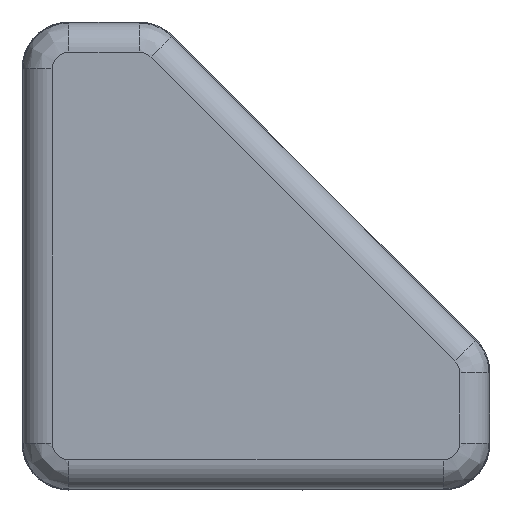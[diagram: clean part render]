
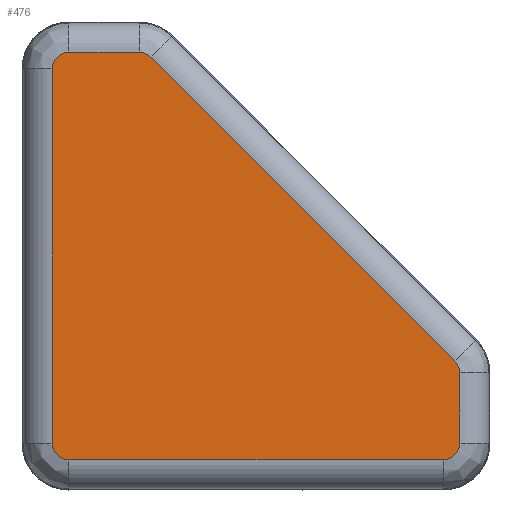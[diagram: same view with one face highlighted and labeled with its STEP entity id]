
A CAD part, left-side view. The second image highlights one B-rep face of the part: STEP entity #476.
In plain terms, the highlighted planar face has unit normal (-1, 0, 0).
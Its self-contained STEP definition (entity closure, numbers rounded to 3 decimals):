
#416=CIRCLE('',#1264,1.418);
#417=CIRCLE('',#1265,1.418);
#418=CIRCLE('',#1266,1.418);
#419=CIRCLE('',#1267,1.418);
#420=CIRCLE('',#1268,1.418);
#476=ADVANCED_FACE('',(#551),#505,.F.);
#505=PLANE('',#1269);
#551=FACE_OUTER_BOUND('',#607,.T.);
#607=EDGE_LOOP('',(#818,#819,#820,#821,#822,#823,#824,#825,#826,#827));
#818=ORIENTED_EDGE('',*,*,#1038,.T.);
#819=ORIENTED_EDGE('',*,*,#1039,.T.);
#820=ORIENTED_EDGE('',*,*,#1040,.T.);
#821=ORIENTED_EDGE('',*,*,#1041,.T.);
#822=ORIENTED_EDGE('',*,*,#1042,.T.);
#823=ORIENTED_EDGE('',*,*,#1043,.T.);
#824=ORIENTED_EDGE('',*,*,#1044,.T.);
#825=ORIENTED_EDGE('',*,*,#1045,.T.);
#826=ORIENTED_EDGE('',*,*,#1046,.T.);
#827=ORIENTED_EDGE('',*,*,#1047,.T.);
#926=VERTEX_POINT('',#1863);
#927=VERTEX_POINT('',#1864);
#928=VERTEX_POINT('',#1866);
#929=VERTEX_POINT('',#1868);
#930=VERTEX_POINT('',#1870);
#931=VERTEX_POINT('',#1872);
#932=VERTEX_POINT('',#1874);
#933=VERTEX_POINT('',#1876);
#934=VERTEX_POINT('',#1878);
#935=VERTEX_POINT('',#1880);
#1038=EDGE_CURVE('',#926,#927,#1119,.T.);
#1039=EDGE_CURVE('',#927,#928,#416,.T.);
#1040=EDGE_CURVE('',#928,#929,#1120,.T.);
#1041=EDGE_CURVE('',#929,#930,#417,.T.);
#1042=EDGE_CURVE('',#930,#931,#1121,.T.);
#1043=EDGE_CURVE('',#931,#932,#418,.T.);
#1044=EDGE_CURVE('',#932,#933,#1122,.T.);
#1045=EDGE_CURVE('',#933,#934,#419,.T.);
#1046=EDGE_CURVE('',#934,#935,#1123,.T.);
#1047=EDGE_CURVE('',#935,#926,#420,.T.);
#1119=LINE('',#1862,#1185);
#1120=LINE('',#1867,#1186);
#1121=LINE('',#1871,#1187);
#1122=LINE('',#1875,#1188);
#1123=LINE('',#1879,#1189);
#1185=VECTOR('',#1494,1.);
#1186=VECTOR('',#1497,1.);
#1187=VECTOR('',#1500,1.);
#1188=VECTOR('',#1503,1.);
#1189=VECTOR('',#1506,1.);
#1264=AXIS2_PLACEMENT_3D('',#1865,#1495,#1496);
#1265=AXIS2_PLACEMENT_3D('',#1869,#1498,#1499);
#1266=AXIS2_PLACEMENT_3D('',#1873,#1501,#1502);
#1267=AXIS2_PLACEMENT_3D('',#1877,#1504,#1505);
#1268=AXIS2_PLACEMENT_3D('',#1881,#1507,#1508);
#1269=AXIS2_PLACEMENT_3D('',#1882,#1509,#1510);
#1494=DIRECTION('',(0.,0.,-1.));
#1495=DIRECTION('',(-1.,0.,0.));
#1496=DIRECTION('',(0.,0.,1.));
#1497=DIRECTION('',(0.,-1.,0.));
#1498=DIRECTION('',(-1.,0.,0.));
#1499=DIRECTION('',(0.,0.,1.));
#1500=DIRECTION('',(0.,0.,1.));
#1501=DIRECTION('',(-1.,0.,0.));
#1502=DIRECTION('',(0.,0.,1.));
#1503=DIRECTION('',(0.,0.707,0.707));
#1504=DIRECTION('',(-1.,0.,0.));
#1505=DIRECTION('',(0.,0.,1.));
#1506=DIRECTION('',(0.,1.,0.));
#1507=DIRECTION('',(-1.,0.,0.));
#1508=DIRECTION('',(0.,0.,1.));
#1509=DIRECTION('',(1.,0.,0.));
#1510=DIRECTION('',(0.,0.,1.));
#1862=CARTESIAN_POINT('',(-4.,-2.582,-36.));
#1863=CARTESIAN_POINT('',(-4.,-2.582,-4.));
#1864=CARTESIAN_POINT('',(-4.,-2.582,-36.));
#1865=CARTESIAN_POINT('',(-4.,-4.,-36.));
#1866=CARTESIAN_POINT('',(-4.,-4.,-37.418));
#1867=CARTESIAN_POINT('',(-4.,-36.,-37.418));
#1868=CARTESIAN_POINT('',(-4.,-36.,-37.418));
#1869=CARTESIAN_POINT('',(-4.,-36.,-36.));
#1870=CARTESIAN_POINT('',(-4.,-37.418,-36.));
#1871=CARTESIAN_POINT('',(-4.,-37.418,-29.977));
#1872=CARTESIAN_POINT('',(-4.,-37.418,-29.977));
#1873=CARTESIAN_POINT('',(-4.,-36.,-29.977));
#1874=CARTESIAN_POINT('',(-4.,-37.003,-28.974));
#1875=CARTESIAN_POINT('',(-4.,-11.026,-2.997));
#1876=CARTESIAN_POINT('',(-4.,-11.026,-2.997));
#1877=CARTESIAN_POINT('',(-4.,-10.023,-4.));
#1878=CARTESIAN_POINT('',(-4.,-10.023,-2.582));
#1879=CARTESIAN_POINT('',(-4.,-4.,-2.582));
#1880=CARTESIAN_POINT('',(-4.,-4.,-2.582));
#1881=CARTESIAN_POINT('',(-4.,-4.,-4.));
#1882=CARTESIAN_POINT('',(-4.,-4.,-36.));
